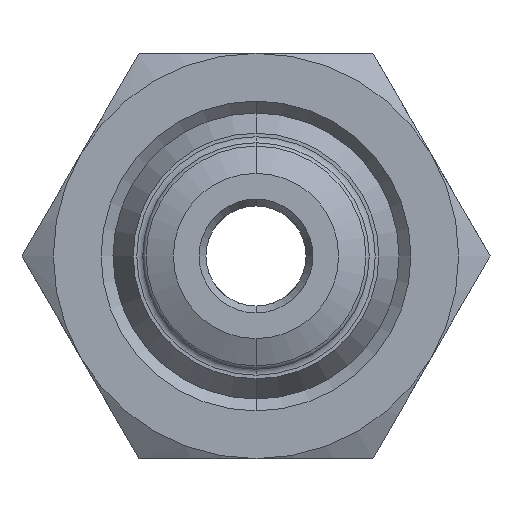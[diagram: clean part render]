
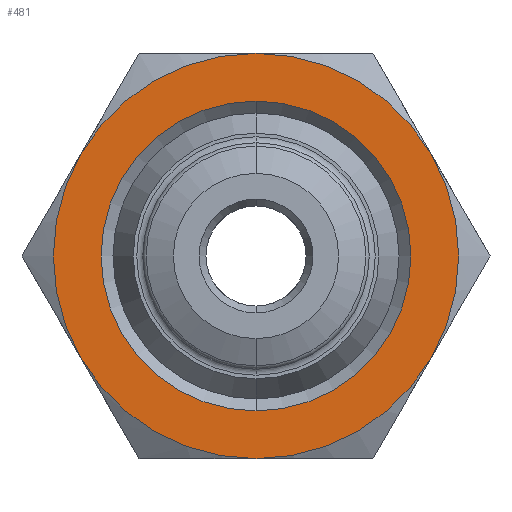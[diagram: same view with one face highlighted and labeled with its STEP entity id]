
A CAD part, front view. The second image highlights one B-rep face of the part: STEP entity #481.
In plain terms, the highlighted planar face has unit normal (0, -1, 0).
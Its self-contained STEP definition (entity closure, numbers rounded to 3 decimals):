
#31 = DIRECTION ( 'NONE',  ( 0., 0., -1. ) ) ;
#55 = DIRECTION ( 'NONE',  ( 0., -1., 0. ) ) ;
#284 = DIRECTION ( 'NONE',  ( 0., 1., 0. ) ) ;
#305 = CARTESIAN_POINT ( 'NONE',  ( 0., 5.524, 0. ) ) ;
#350 = CARTESIAN_POINT ( 'NONE',  ( 0., 5.524, 0. ) ) ;
#481 = ADVANCED_FACE ( 'NONE', ( #1524, #5076 ), #3490, .T. ) ;
#593 = CARTESIAN_POINT ( 'NONE',  ( 7.361, 5.524, 4.25 ) ) ;
#729 = CIRCLE ( 'NONE', #5994, 8.5 ) ;
#730 = VERTEX_POINT ( 'NONE', #3194 ) ;
#843 = AXIS2_PLACEMENT_3D ( 'NONE', #2549, #3444, #3431 ) ;
#1028 = VERTEX_POINT ( 'NONE', #2096 ) ;
#1045 = VERTEX_POINT ( 'NONE', #2619 ) ;
#1055 = EDGE_CURVE ( 'NONE', #730, #1229, #4102, .T. ) ;
#1229 = VERTEX_POINT ( 'NONE', #5820 ) ;
#1445 = EDGE_CURVE ( 'NONE', #2391, #730, #729, .T. ) ;
#1524 = FACE_BOUND ( 'NONE', #2206, .T. ) ;
#1591 = ORIENTED_EDGE ( 'NONE', *, *, #1055, .T. ) ;
#1676 = ORIENTED_EDGE ( 'NONE', *, *, #3264, .T. ) ;
#1742 = AXIS2_PLACEMENT_3D ( 'NONE', #3125, #3130, #3153 ) ;
#2096 = CARTESIAN_POINT ( 'NONE',  ( 0., 5.524, -6.5 ) ) ;
#2163 = EDGE_CURVE ( 'NONE', #3516, #2391, #4858, .T. ) ;
#2206 = EDGE_LOOP ( 'NONE', ( #5185, #4421 ) ) ;
#2209 = CIRCLE ( 'NONE', #5488, 8.5 ) ;
#2264 = CIRCLE ( 'NONE', #5090, 8.5 ) ;
#2391 = VERTEX_POINT ( 'NONE', #3771 ) ;
#2530 = EDGE_CURVE ( 'NONE', #3358, #3516, #4671, .T. ) ;
#2549 = CARTESIAN_POINT ( 'NONE',  ( 0., 5.524, 0. ) ) ;
#2550 = CARTESIAN_POINT ( 'NONE',  ( 0., 5.524, 0. ) ) ;
#2619 = CARTESIAN_POINT ( 'NONE',  ( 0., 5.524, 6.5 ) ) ;
#2645 = CARTESIAN_POINT ( 'NONE',  ( 7.361, 5.524, -4.25 ) ) ;
#2740 = EDGE_CURVE ( 'NONE', #1028, #1045, #2911, .T. ) ;
#2808 = ORIENTED_EDGE ( 'NONE', *, *, #3952, .T. ) ;
#2911 = CIRCLE ( 'NONE', #5810, 6.5 ) ;
#3019 = VERTEX_POINT ( 'NONE', #2645 ) ;
#3125 = CARTESIAN_POINT ( 'NONE',  ( 0., 5.524, 0. ) ) ;
#3130 = DIRECTION ( 'NONE',  ( 0., -1., 0. ) ) ;
#3153 = DIRECTION ( 'NONE',  ( 0., 0., -1. ) ) ;
#3194 = CARTESIAN_POINT ( 'NONE',  ( -7.361, 5.524, -4.25 ) ) ;
#3264 = EDGE_CURVE ( 'NONE', #1229, #3019, #2209, .T. ) ;
#3358 = VERTEX_POINT ( 'NONE', #593 ) ;
#3431 = DIRECTION ( 'NONE',  ( 0., 0., -1. ) ) ;
#3444 = DIRECTION ( 'NONE',  ( 0., -1., 0. ) ) ;
#3490 = PLANE ( 'NONE',  #843 ) ;
#3491 = DIRECTION ( 'NONE',  ( 0., -1., 0. ) ) ;
#3516 = VERTEX_POINT ( 'NONE', #5389 ) ;
#3532 = DIRECTION ( 'NONE',  ( 0., 0., -1. ) ) ;
#3658 = CARTESIAN_POINT ( 'NONE',  ( 0., 5.524, 0. ) ) ;
#3707 = DIRECTION ( 'NONE',  ( 0., 1., 0. ) ) ;
#3761 = EDGE_CURVE ( 'NONE', #1045, #1028, #4302, .T. ) ;
#3771 = CARTESIAN_POINT ( 'NONE',  ( -7.361, 5.524, 4.25 ) ) ;
#3797 = CARTESIAN_POINT ( 'NONE',  ( 0., 5.524, 0. ) ) ;
#3807 = DIRECTION ( 'NONE',  ( 0., 0., -1. ) ) ;
#3952 = EDGE_CURVE ( 'NONE', #3019, #3358, #2264, .T. ) ;
#4102 = CIRCLE ( 'NONE', #1742, 8.5 ) ;
#4302 = CIRCLE ( 'NONE', #5291, 6.5 ) ;
#4421 = ORIENTED_EDGE ( 'NONE', *, *, #3761, .T. ) ;
#4671 = CIRCLE ( 'NONE', #5929, 8.5 ) ;
#4858 = CIRCLE ( 'NONE', #6363, 8.5 ) ;
#5076 = FACE_OUTER_BOUND ( 'NONE', #5559, .T. ) ;
#5090 = AXIS2_PLACEMENT_3D ( 'NONE', #5838, #5647, #5603 ) ;
#5169 = ORIENTED_EDGE ( 'NONE', *, *, #2530, .T. ) ;
#5185 = ORIENTED_EDGE ( 'NONE', *, *, #2740, .T. ) ;
#5259 = ORIENTED_EDGE ( 'NONE', *, *, #2163, .T. ) ;
#5291 = AXIS2_PLACEMENT_3D ( 'NONE', #305, #284, #5939 ) ;
#5338 = ORIENTED_EDGE ( 'NONE', *, *, #1445, .T. ) ;
#5389 = CARTESIAN_POINT ( 'NONE',  ( 0., 5.524, 8.5 ) ) ;
#5423 = CARTESIAN_POINT ( 'NONE',  ( 0., 5.524, 0. ) ) ;
#5436 = DIRECTION ( 'NONE',  ( 0., -1., 0. ) ) ;
#5457 = DIRECTION ( 'NONE',  ( 0., 0., -1. ) ) ;
#5488 = AXIS2_PLACEMENT_3D ( 'NONE', #3797, #5774, #5500 ) ;
#5500 = DIRECTION ( 'NONE',  ( 0., 0., -1. ) ) ;
#5559 = EDGE_LOOP ( 'NONE', ( #1676, #2808, #5169, #5259, #5338, #1591 ) ) ;
#5603 = DIRECTION ( 'NONE',  ( 0., 0., -1. ) ) ;
#5647 = DIRECTION ( 'NONE',  ( 0., -1., 0. ) ) ;
#5774 = DIRECTION ( 'NONE',  ( 0., -1., 0. ) ) ;
#5810 = AXIS2_PLACEMENT_3D ( 'NONE', #3658, #3707, #3807 ) ;
#5820 = CARTESIAN_POINT ( 'NONE',  ( 0., 5.524, -8.5 ) ) ;
#5838 = CARTESIAN_POINT ( 'NONE',  ( 0., 5.524, 0. ) ) ;
#5929 = AXIS2_PLACEMENT_3D ( 'NONE', #5423, #5436, #5457 ) ;
#5939 = DIRECTION ( 'NONE',  ( 0., 0., -1. ) ) ;
#5994 = AXIS2_PLACEMENT_3D ( 'NONE', #350, #55, #31 ) ;
#6363 = AXIS2_PLACEMENT_3D ( 'NONE', #2550, #3491, #3532 ) ;
